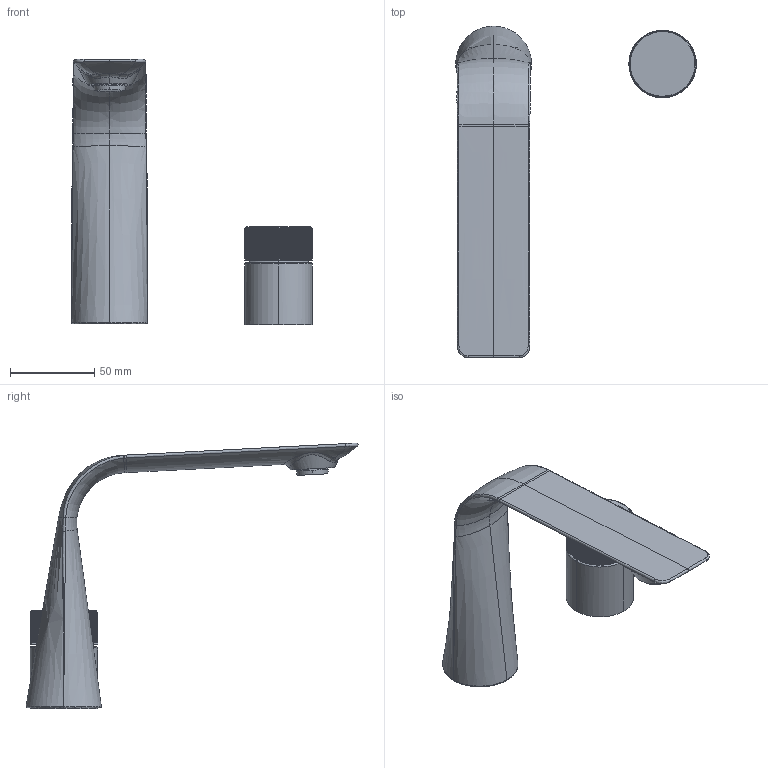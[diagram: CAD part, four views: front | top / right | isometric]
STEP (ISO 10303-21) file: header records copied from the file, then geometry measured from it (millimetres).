
FILE_DESCRIPTION(/* description */ (''),/* implementation_level */ '2;1');
FILE_NAME(/* name */ 'a',/* time_stamp */ '2019-08-29T15:06:09+02:00',/* author */ (''),/* organization */ (''),/* preprocessor_version */ 'ST-DEVELOPER v15',/* originating_system */ '',/* authorisation */ '');
FILE_SCHEMA (('AUTOMOTIVE_DESIGN'));
Length unit declared in the file: millimetre
Products named in the file (1): Document
Bounding box: 142.81 x 197.03 x 157.83 mm (x, y, z)
Volume: 234081.7 mm3; surface area: 54564.8 mm2
Topology: 6 solids, 6 shells, 1299 faces, 3619 edges, 2300 vertices
Faces by surface type: bspline 732, plane 567
Entity records: 53971 total; most frequent: CARTESIAN_POINT 33035, ORIENTED_EDGE 7154, EDGE_CURVE 3577, VERTEX_POINT 2300, B_SPLINE_CURVE_WITH_KNOTS 2203, EDGE_LOOP 1315, ADVANCED_FACE 1299, FACE_OUTER_BOUND 1299
